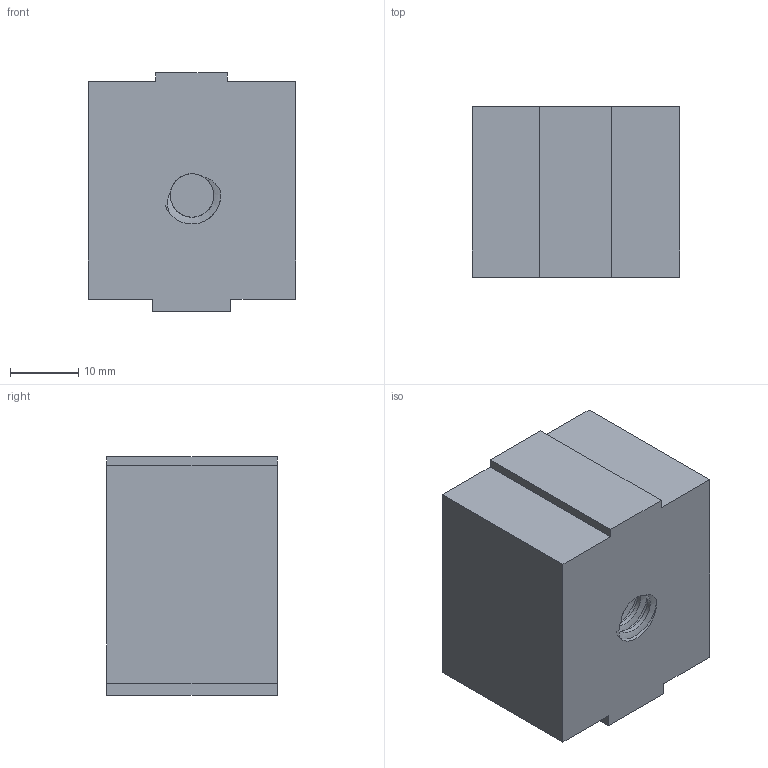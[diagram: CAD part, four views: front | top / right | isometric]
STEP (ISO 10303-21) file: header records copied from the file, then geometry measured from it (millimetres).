
FILE_DESCRIPTION(/* description */ ('STEP AP242 Edition 2','CAx-IF Rec.Pracs.---Representation and Presentation of Product Manufacturing Information (PMI)---4.0---2014-10-13','CAx-IF Rec.Pracs.---3D Tessellated Geometry---0.4---2014-09-14','2;1','CAx-IF Rec.Pracs.---User Defined Attributes---1.5---2016-08-15'),/* implementation_level */ '2;1');
FILE_NAME(/* name */ 'Assembly 1 - Bolt',/* time_stamp */ '2026-08-25T12:50:00Z',/* author */ (''),/* organization */ (''),/* preprocessor_version */ 'ST-DEVELOPER v20',/* originating_system */ 'ONSHAPE BY PTC INC, 1.219',/* authorisation */ ' ');
FILE_SCHEMA (('AP242_MANAGED_MODEL_BASED_3D_ENGINEERING_MIM_LF { 1 0 10303 442 3 1 4 }'));
Length unit declared in the file: metre
Products named in the file (1): Bolt
Bounding box: 30.4 x 25 x 35 mm (x, y, z)
Volume: 24036.7 mm3; surface area: 6254.4 mm2
Topology: 1 solids, 1 shells, 19 faces, 48 edges, 32 vertices
Faces by surface type: plane 15, cylinder 2, bspline 2
Entity records: 2653 total; most frequent: CARTESIAN_POINT 2188, ORIENTED_EDGE 96, DIRECTION 80, EDGE_CURVE 48, LINE 36, VECTOR 36, VERTEX_POINT 32, AXIS2_PLACEMENT_3D 22
